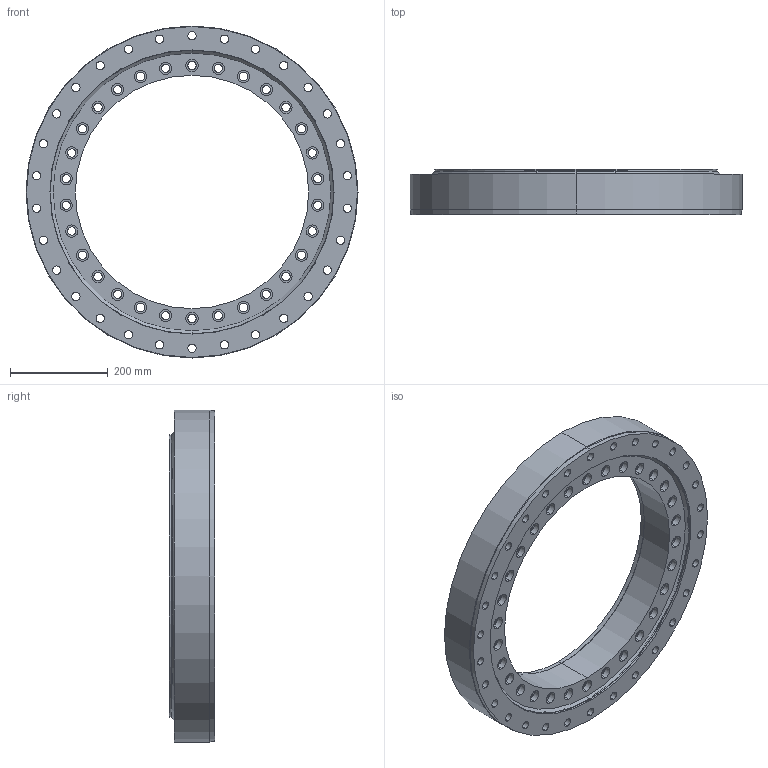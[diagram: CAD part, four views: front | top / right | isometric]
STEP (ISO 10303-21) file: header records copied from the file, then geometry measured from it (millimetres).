
FILE_DESCRIPTION (( 'STEP AP203' ), '1' );
FILE_NAME ('B2220-0-0680BB.STEP', '2022-04-29T06:57:22', ( '' ), ( '' ), 'SwSTEP 2.0', 'SolidWorks 2020', '' );
FILE_SCHEMA (( 'CONFIG_CONTROL_DESIGN' ));
Length unit declared in the file: millimetre
Products named in the file (1): B2220-0-0680BB
Bounding box: 680 x 93 x 680 mm (x, y, z)
Volume: 13648205 mm3; surface area: 1389179.7 mm2
Topology: 4 solids, 4 shells, 347 faces, 814 edges, 540 vertices
Faces by surface type: cylinder 264, plane 73, cone 10
Entity records: 10571 total; most frequent: DIRECTION 2050, CARTESIAN_POINT 1702, ORIENTED_EDGE 1628, AXIS2_PLACEMENT_3D 888, EDGE_CURVE 814, CIRCLE 540, EDGE_LOOP 540, VERTEX_POINT 540
